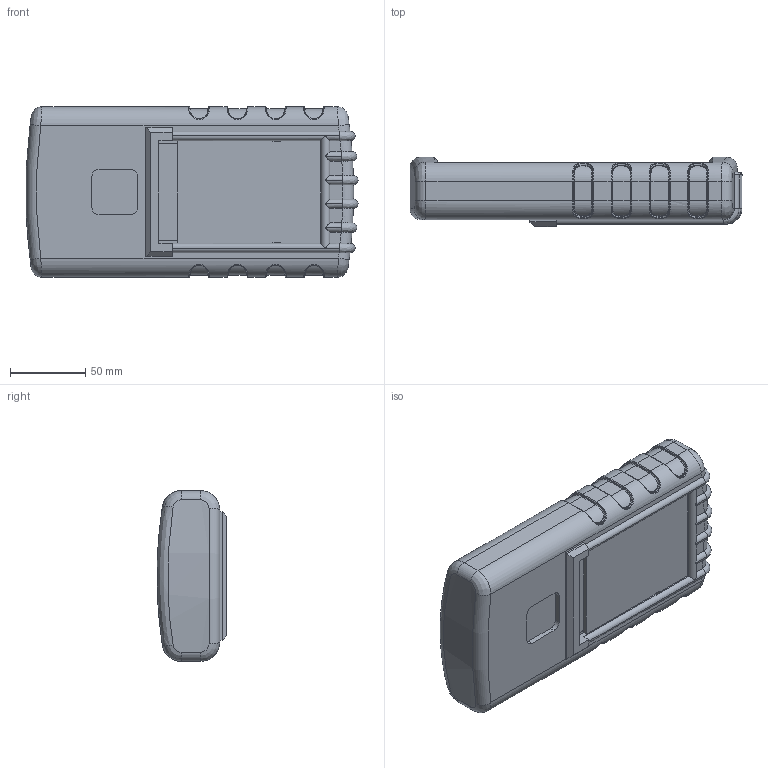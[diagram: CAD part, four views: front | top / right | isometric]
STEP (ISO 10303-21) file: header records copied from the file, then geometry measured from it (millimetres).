
FILE_DESCRIPTION (( 'STEP AP214' ), '1' );
FILE_NAME ('100-42-29V-R.STEP', '2020-11-20T19:20:52', ( 'Rudy' ), ( '' ), 'SwSTEP 2.0', 'SolidWorks 2016', '' );
FILE_SCHEMA (( 'AUTOMOTIVE_DESIGN' ));
Length unit declared in the file: inch
Products named in the file (6): 100-04-recessed Top; 100-02 BOT-29V; 100-42-29V-R; 100 RBT; 100-2-9V-4AA PCB; 29V door
Assembly tree (5 placements, depth 2):
  100-42-29V-R
    100-02 BOT-29V
    100-04-recessed Top
    29V door
    100-2-9V-4AA PCB
    100 RBT
Bounding box: 220.37 x 46.01 x 113.28 mm (x, y, z)
Volume: 326214.5 mm3; surface area: 250151.1 mm2
Topology: 5 solids, 5 shells, 1220 faces, 3197 edges, 1980 vertices
Faces by surface type: plane 533, cylinder 387, bspline 146, torus 114, cone 36, sphere 4
Entity records: 48297 total; most frequent: CARTESIAN_POINT 19164, ORIENTED_EDGE 6318, DIRECTION 5634, EDGE_CURVE 3159, VERTEX_POINT 1972, AXIS2_PLACEMENT_3D 1939, LINE 1756, VECTOR 1756
